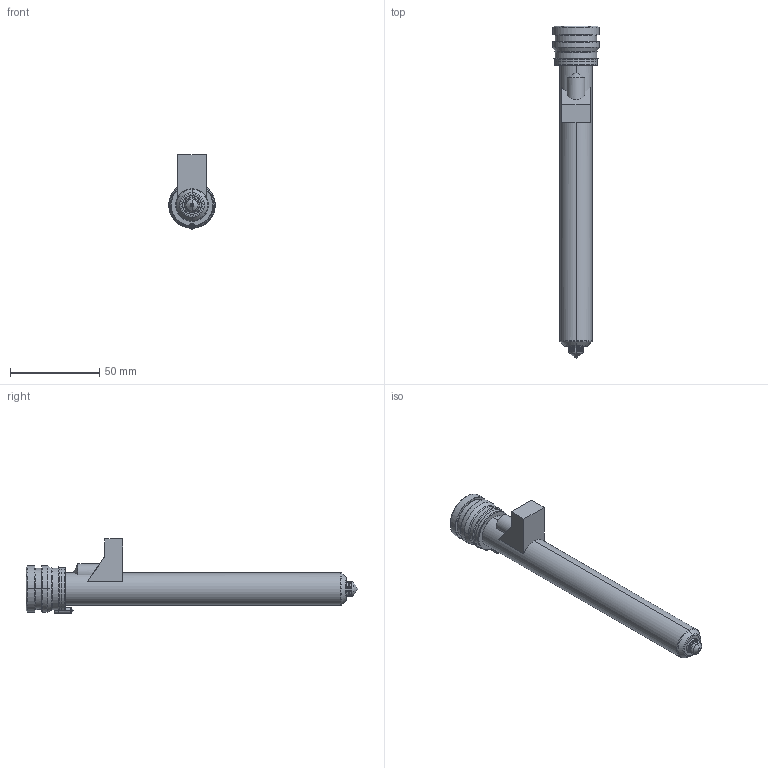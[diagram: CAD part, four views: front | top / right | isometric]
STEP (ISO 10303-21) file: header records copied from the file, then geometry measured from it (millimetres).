
FILE_DESCRIPTION((''),'2;1');
FILE_NAME('MPN-08-24-TX8-166-M','2026-02-05T13:26:46',('UPTIO'),('Thermoplay S.p.A.'),'CREO PARAMETRIC BY PTC INC, 2023494','CREO PARAMETRIC BY PTC INC, 2023494','');
FILE_SCHEMA(('CONFIG_CONTROL_DESIGN','SHAPE_APPEARANCE_LAYERS_GROUPS'));
Length unit declared in the file: millimetre
Products named in the file (1): MPN-08-24-TX8-166-M
Bounding box: 26 x 185.5 x 41.5 mm (x, y, z)
Volume: 34770.8 mm3; surface area: 46462.9 mm2
Topology: 2 solids, 3 shells, 532 faces, 1392 edges, 855 vertices
Faces by surface type: cylinder 174, plane 144, bspline 77, torus 62, cone 58, sphere 11, extrusion 6
Entity records: 28034 total; most frequent: CARTESIAN_POINT 12410, ORIENTED_EDGE 2762, DIRECTION 2491, EDGE_CURVE 1381, AXIS2_PLACEMENT_3D 974, VERTEX_POINT 855, EDGE_LOOP 562, VECTOR 543
